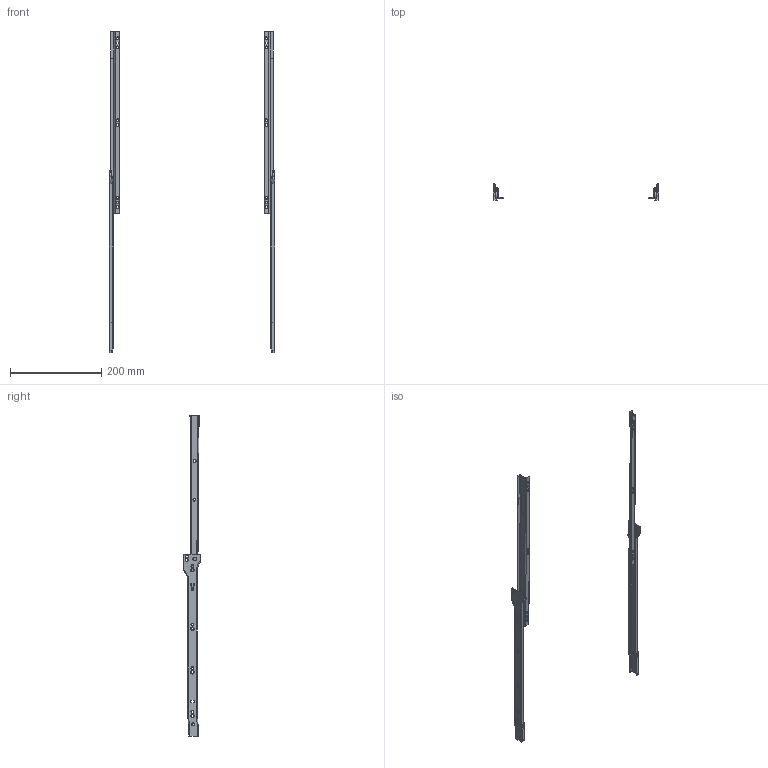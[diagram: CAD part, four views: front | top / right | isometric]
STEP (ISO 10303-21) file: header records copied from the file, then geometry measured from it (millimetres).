
FILE_DESCRIPTION(/* description */ (''),/* implementation_level */ '2;1');
FILE_NAME(/* name */ 'D:\$Workingspace\Designs\Katalog\Cadsoft\GTV Prowadnice\Prowadnice GTV_bryły 3D\PR-SP-400-10_wysunieta.stp',/* time_stamp */ '2016-11-22T15:25:08+01:00',/* author */ ('tomaszw'),/* organization */ (''),/* preprocessor_version */ 'ST-DEVELOPER v16.1',/* originating_system */ 'Autodesk Inventor 2016',/* authorisation */ '');
FILE_SCHEMA (('AUTOMOTIVE_DESIGN { 1 0 10303 214 3 1 1 }'));
Length unit declared in the file: millimetre
Products named in the file (5): PR-SP-400-10_CL; PR-SP-400-10_CR; PR-SP-400-10_DL; PR-SP-400-10_DR; PR-SP
Assembly tree (4 placements, depth 2):
  PR-SP
    PR-SP-400-10_CL
    PR-SP-400-10_CR
    PR-SP-400-10_DL
    PR-SP-400-10_DR
Bounding box: 364 x 36 x 705 mm (x, y, z)
Volume: 75444.6 mm3; surface area: 123415.5 mm2
Topology: 4 solids, 4 shells, 424 faces, 1060 edges, 656 vertices
Faces by surface type: cylinder 186, plane 158, cone 44, torus 28, sphere 8
Full cylindrical faces by diameter (mm): 5 x2, 5.4 x24, 5.5 x2, 6.4 x8, 7 x4, 8 x4, 18.5 x4
Entity records: 12953 total; most frequent: CARTESIAN_POINT 2239, DIRECTION 2228, ORIENTED_EDGE 1920, EDGE_CURVE 960, AXIS2_PLACEMENT_3D 849, VERTEX_POINT 648, EDGE_LOOP 628, LINE 530
